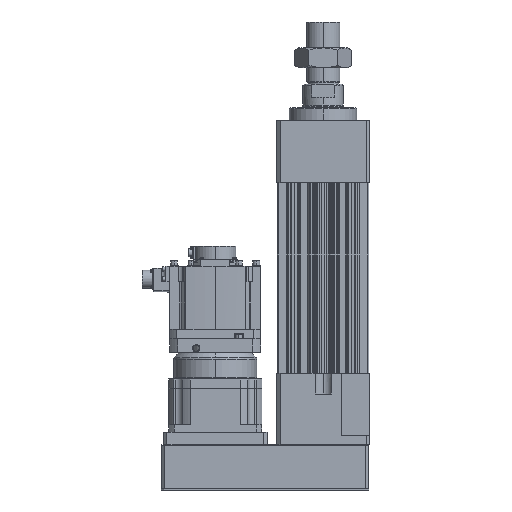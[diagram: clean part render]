
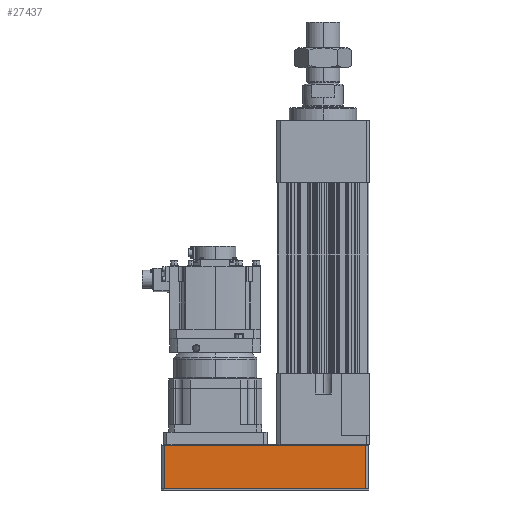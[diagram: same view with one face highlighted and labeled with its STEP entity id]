
A CAD part, left-side view. The second image highlights one B-rep face of the part: STEP entity #27437.
In plain terms, the highlighted planar face has unit normal (-1, 0, 0).
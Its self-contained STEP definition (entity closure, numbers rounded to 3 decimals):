
#447 = AXIS2_PLACEMENT_3D ( 'NONE', #31976, #19836, #40443 ) ;
#2841 = EDGE_CURVE ( 'NONE', #17980, #29323, #14098, .T. ) ;
#3108 = VECTOR ( 'NONE', #17225, 1000. ) ;
#4587 = DIRECTION ( 'NONE',  ( 0., 1., 0. ) ) ;
#4680 = CARTESIAN_POINT ( 'NONE',  ( -88., 306., -222. ) ) ;
#5591 = EDGE_CURVE ( 'NONE', #13627, #17980, #48409, .T. ) ;
#6847 = CARTESIAN_POINT ( 'NONE',  ( -88., -82., -221.5 ) ) ;
#9978 = ORIENTED_EDGE ( 'NONE', *, *, #11388, .F. ) ;
#11011 = LINE ( 'NONE', #4680, #44649 ) ;
#11388 = EDGE_CURVE ( 'NONE', #13627, #14109, #11011, .T. ) ;
#12053 = CARTESIAN_POINT ( 'NONE',  ( -88., 306., -138.5 ) ) ;
#12330 = EDGE_CURVE ( 'NONE', #29323, #14109, #15393, .T. ) ;
#13002 = DIRECTION ( 'NONE',  ( 0., 0., 1. ) ) ;
#13627 = VERTEX_POINT ( 'NONE', #42525 ) ;
#14098 = LINE ( 'NONE', #37861, #3108 ) ;
#14109 = VERTEX_POINT ( 'NONE', #12053 ) ;
#15393 = LINE ( 'NONE', #25038, #18008 ) ;
#17040 = EDGE_LOOP ( 'NONE', ( #9978, #53515, #45531, #44614 ) ) ;
#17225 = DIRECTION ( 'NONE',  ( 0., 0., 1. ) ) ;
#17980 = VERTEX_POINT ( 'NONE', #6847 ) ;
#18008 = VECTOR ( 'NONE', #4587, 1000. ) ;
#19478 = PLANE ( 'NONE',  #447 ) ;
#19836 = DIRECTION ( 'NONE',  ( 1., 0., 0. ) ) ;
#21270 = CARTESIAN_POINT ( 'NONE',  ( -88., -82., -138.5 ) ) ;
#25038 = CARTESIAN_POINT ( 'NONE',  ( -88., -82., -138.5 ) ) ;
#26426 = DIRECTION ( 'NONE',  ( 0., -1., 0. ) ) ;
#27437 = ADVANCED_FACE ( 'NONE', ( #27694 ), #19478, .F. ) ;
#27694 = FACE_OUTER_BOUND ( 'NONE', #17040, .T. ) ;
#28304 = VECTOR ( 'NONE', #26426, 1000. ) ;
#29323 = VERTEX_POINT ( 'NONE', #21270 ) ;
#31976 = CARTESIAN_POINT ( 'NONE',  ( -88., -82., -222. ) ) ;
#37861 = CARTESIAN_POINT ( 'NONE',  ( -88., -82., -222. ) ) ;
#40443 = DIRECTION ( 'NONE',  ( 0., 0., -1. ) ) ;
#42525 = CARTESIAN_POINT ( 'NONE',  ( -88., 306., -221.5 ) ) ;
#44614 = ORIENTED_EDGE ( 'NONE', *, *, #12330, .T. ) ;
#44649 = VECTOR ( 'NONE', #13002, 1000. ) ;
#45531 = ORIENTED_EDGE ( 'NONE', *, *, #2841, .T. ) ;
#48409 = LINE ( 'NONE', #50712, #28304 ) ;
#50712 = CARTESIAN_POINT ( 'NONE',  ( -88., -82., -221.5 ) ) ;
#53515 = ORIENTED_EDGE ( 'NONE', *, *, #5591, .T. ) ;
